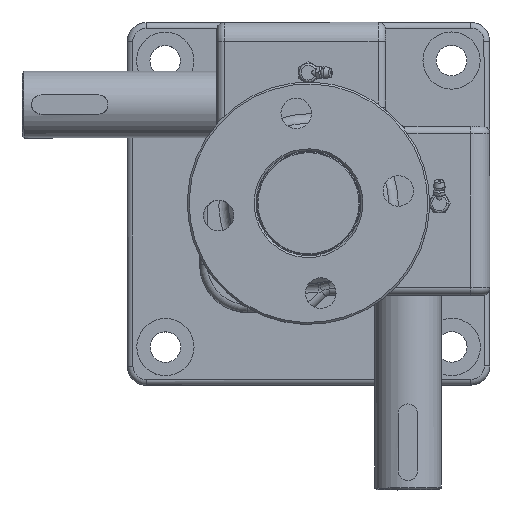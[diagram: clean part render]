
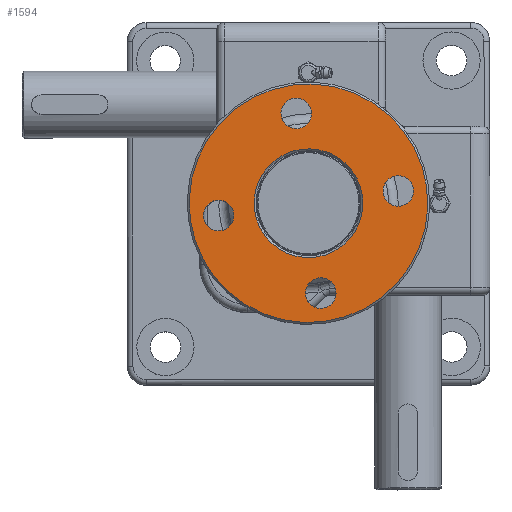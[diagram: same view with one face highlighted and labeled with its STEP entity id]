
A CAD part, top view. The second image highlights one B-rep face of the part: STEP entity #1594.
In plain terms, the highlighted planar face has unit normal (0, 0, 1) as drawn and (1, 0, 0) by its records, which use the part's own axes.
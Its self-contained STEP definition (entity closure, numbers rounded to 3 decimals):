
#1594=ADVANCED_FACE('',(#4470,#4471,#4472,#4473,#4474,#4475),#4476,.T.);
#4470=FACE_OUTER_BOUND('',#9847,.T.);
#4471=FACE_BOUND('',#9848,.T.);
#4472=FACE_BOUND('',#9849,.T.);
#4473=FACE_BOUND('',#9850,.T.);
#4474=FACE_BOUND('',#9851,.T.);
#4475=FACE_BOUND('',#9852,.T.);
#4476=PLANE('',#9853);
#9847=EDGE_LOOP('',(#17081));
#9848=EDGE_LOOP('',(#17082));
#9849=EDGE_LOOP('',(#17083));
#9850=EDGE_LOOP('',(#17084));
#9851=EDGE_LOOP('',(#17085));
#9852=EDGE_LOOP('',(#17086));
#9853=AXIS2_PLACEMENT_3D('',#17087,#17088,#17089);
#17081=ORIENTED_EDGE('',*,*,#37260,.T.);
#17082=ORIENTED_EDGE('',*,*,#37261,.T.);
#17083=ORIENTED_EDGE('',*,*,#37262,.F.);
#17084=ORIENTED_EDGE('',*,*,#37263,.F.);
#17085=ORIENTED_EDGE('',*,*,#37264,.F.);
#17086=ORIENTED_EDGE('',*,*,#37265,.F.);
#17087=CARTESIAN_POINT('',(0.0,0.0,0.0));
#17088=DIRECTION('',(1.0,0.,0.));
#17089=DIRECTION('',(0.,0.,1.0));
#37260=EDGE_CURVE('',#44215,#44215,#44216,.T.);
#37261=EDGE_CURVE('',#44217,#44217,#44218,.T.);
#37262=EDGE_CURVE('',#44219,#44219,#44220,.T.);
#37263=EDGE_CURVE('',#44221,#44221,#44222,.T.);
#37264=EDGE_CURVE('',#44223,#44223,#44224,.T.);
#37265=EDGE_CURVE('',#44225,#44225,#44226,.T.);
#44215=VERTEX_POINT('',#55539);
#44216=CIRCLE('',#55540,62.5);
#44217=VERTEX_POINT('',#55541);
#44218=CIRCLE('',#55542,28.5);
#44219=VERTEX_POINT('',#55543);
#44220=CIRCLE('',#55544,8.0);
#44221=VERTEX_POINT('',#55545);
#44222=CIRCLE('',#55546,8.0);
#44223=VERTEX_POINT('',#55547);
#44224=CIRCLE('',#55548,8.0);
#44225=VERTEX_POINT('',#55549);
#44226=CIRCLE('',#55550,8.0);
#55539=CARTESIAN_POINT('',(0.,62.5,0.));
#55540=AXIS2_PLACEMENT_3D('',#74242,#74243,#74244);
#55541=CARTESIAN_POINT('',(0.0,28.5,0.));
#55542=AXIS2_PLACEMENT_3D('',#74245,#74246,#74247);
#55543=CARTESIAN_POINT('',(0.,8.0,47.5));
#55544=AXIS2_PLACEMENT_3D('',#74248,#74249,#74250);
#55545=CARTESIAN_POINT('',(0.,-39.5,0.));
#55546=AXIS2_PLACEMENT_3D('',#74251,#74252,#74253);
#55547=CARTESIAN_POINT('',(0.,8.0,-47.5));
#55548=AXIS2_PLACEMENT_3D('',#74254,#74255,#74256);
#55549=CARTESIAN_POINT('',(0.,55.5,0.));
#55550=AXIS2_PLACEMENT_3D('',#74257,#74258,#74259);
#74242=CARTESIAN_POINT('',(0.,0.0,0.));
#74243=DIRECTION('',(1.0,0.,0.));
#74244=DIRECTION('',(0.,1.0,0.));
#74245=CARTESIAN_POINT('',(0.0,0.0,0.));
#74246=DIRECTION('',(-1.0,0.0,0.));
#74247=DIRECTION('',(0.0,1.0,0.0));
#74248=CARTESIAN_POINT('',(0.,0.0,47.5));
#74249=DIRECTION('',(1.0,-0.0,0.));
#74250=DIRECTION('',(0.0,1.0,0.0));
#74251=CARTESIAN_POINT('',(0.,-47.5,0.0));
#74252=DIRECTION('',(1.0,0.,0.));
#74253=DIRECTION('',(0.,1.0,0.));
#74254=CARTESIAN_POINT('',(0.,0.0,-47.5));
#74255=DIRECTION('',(1.0,0.,0.));
#74256=DIRECTION('',(0.,1.0,0.));
#74257=CARTESIAN_POINT('',(0.,47.5,0.));
#74258=DIRECTION('',(1.0,0.,0.));
#74259=DIRECTION('',(0.,1.0,0.));
